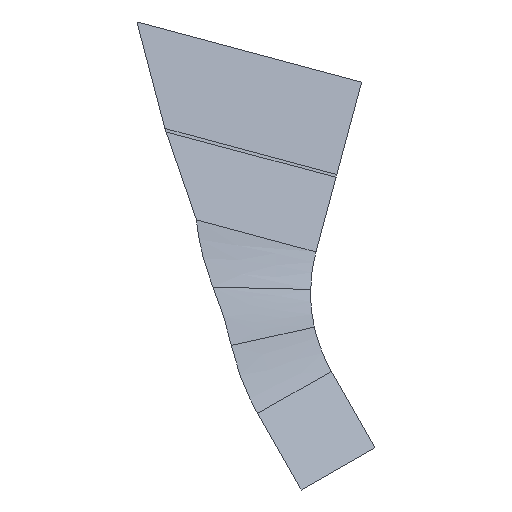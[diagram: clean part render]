
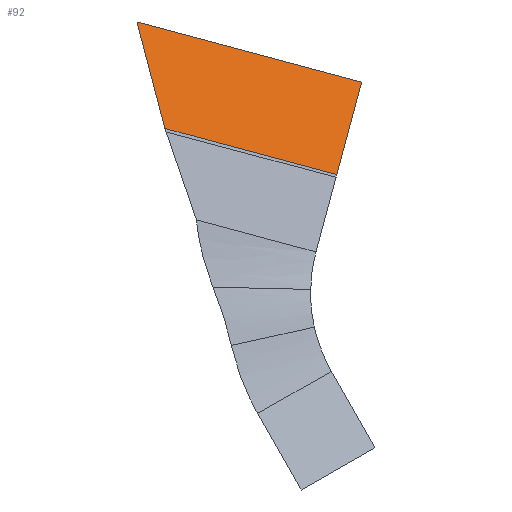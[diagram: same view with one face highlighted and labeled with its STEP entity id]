
A CAD part, front view. The second image highlights one B-rep face of the part: STEP entity #92.
In plain terms, the highlighted planar face has unit normal (-0.535, 0.833, -0.141).
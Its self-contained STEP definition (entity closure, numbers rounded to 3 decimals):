
#53=CARTESIAN_POINT('Axis2P3D Location',(-35.909,-61.943,-37.503)) ;
#58=CARTESIAN_POINT('Line Origine',(-29.212,-62.,-63.369)) ;
#62=CARTESIAN_POINT('Vertex',(-34.761,-62.,-42.215)) ;
#64=CARTESIAN_POINT('Vertex',(-23.662,-62.,-84.523)) ;
#67=CARTESIAN_POINT('Line Origine',(9.854,-35.333,-54.17)) ;
#71=CARTESIAN_POINT('Vertex',(54.47,-8.665,-66.125)) ;
#74=CARTESIAN_POINT('Line Origine',(49.553,-14.921,-84.474)) ;
#78=CARTESIAN_POINT('Vertex',(44.637,-21.177,-102.823)) ;
#81=CARTESIAN_POINT('Line Origine',(10.487,-41.588,-93.673)) ;
#54=DIRECTION('Axis2P3D Direction',(-0.535,0.833,-0.14)) ;
#55=DIRECTION('Axis2P3D XDirection',(0.832,0.492,-0.256)) ;
#59=DIRECTION('Vector Direction',(0.254,0.,-0.967)) ;
#68=DIRECTION('Vector Direction',(-0.837,-0.5,0.224)) ;
#75=DIRECTION('Vector Direction',(0.246,0.313,0.917)) ;
#82=DIRECTION('Vector Direction',(0.837,0.5,-0.224)) ;
#56=AXIS2_PLACEMENT_3D('Plane Axis2P3D',#53,#54,#55) ;
#87=ORIENTED_EDGE('',*,*,#66,.F.) ;
#88=ORIENTED_EDGE('',*,*,#73,.F.) ;
#89=ORIENTED_EDGE('',*,*,#80,.F.) ;
#90=ORIENTED_EDGE('',*,*,#85,.F.) ;
#60=VECTOR('Line Direction',#59,1.) ;
#69=VECTOR('Line Direction',#68,1.) ;
#76=VECTOR('Line Direction',#75,1.) ;
#83=VECTOR('Line Direction',#82,1.) ;
#92=ADVANCED_FACE('',(#91),#57,.T.) ;
#66=EDGE_CURVE('',#63,#65,#61,.T.) ;
#73=EDGE_CURVE('',#72,#63,#70,.T.) ;
#80=EDGE_CURVE('',#79,#72,#77,.T.) ;
#85=EDGE_CURVE('',#65,#79,#84,.T.) ;
#86=EDGE_LOOP('',(#87,#88,#89,#90)) ;
#91=FACE_OUTER_BOUND('',#86,.T.) ;
#61=LINE('Line',#58,#60) ;
#70=LINE('Line',#67,#69) ;
#77=LINE('Line',#74,#76) ;
#84=LINE('Line',#81,#83) ;
#57=PLANE('Plane',#56) ;
#63=VERTEX_POINT('',#62) ;
#65=VERTEX_POINT('',#64) ;
#72=VERTEX_POINT('',#71) ;
#79=VERTEX_POINT('',#78) ;
